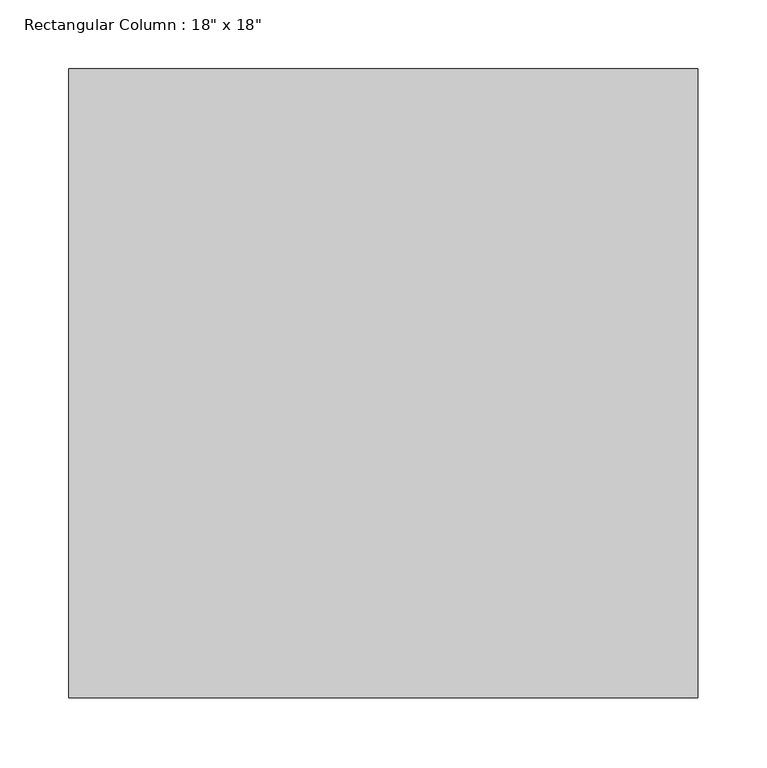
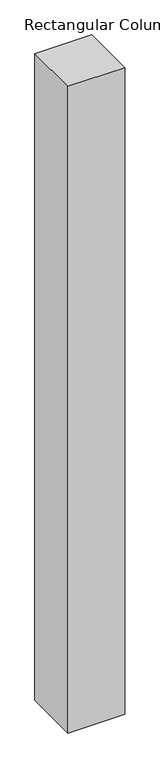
"""IFC4 building model written with IfcOpenShell, lengths in millimetres: column geometry."""

from ifc_helpers import new_model, si_unit, origin, origin_with_axes, place, context, project, spatial, polyline, outline, extrude, source, transform, mapped, element, save


def column_b6e10527(model_context):
    return source(origin(), model_context, "Body", "SweptSolid", [
        extrude(outline(polyline([(228.6, 228.6), (228.6, -228.6), (-228.6, -228.6), (-228.6, 228.6), (228.6, 228.6)])), origin_with_axes(), (0.0, 0.0, 1.0), 5486.4),
    ])


if __name__ == "__main__":
    model = new_model("IFC4")
    model_context = context("Model", 3, world=origin())
    ifc_project = project(units=[si_unit("LENGTHUNIT", "METRE", prefix="MILLI")], contexts=[model_context])
    site = spatial("IfcSite", under=ifc_project)
    building = spatial("IfcBuilding", under=site)
    placement = place(None, origin())
    column_shape = column_b6e10527(model_context)
    element("IfcColumn", 1, ObjectType="Rectangular Column : 18\" x 18\"", at=placement, inside=building, context=model_context, shape_type="MappedRepresentation", body=[
        mapped(column_shape, transform((0.0, 0.0, 0.0), x_axis=(1.0, 0.0, 0.0), y_axis=(0.0, 1.0, 0.0), z_axis=(0.0, 0.0, 1.0))),
    ])
    save(model, "model.ifc")
